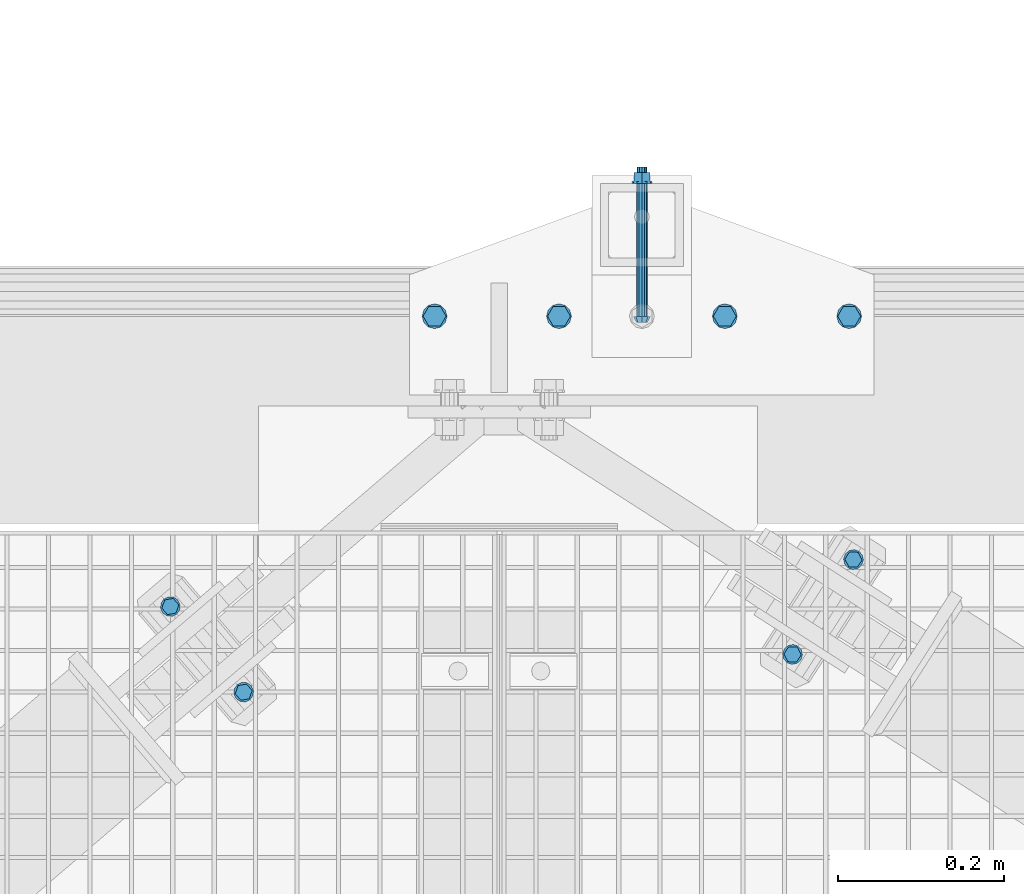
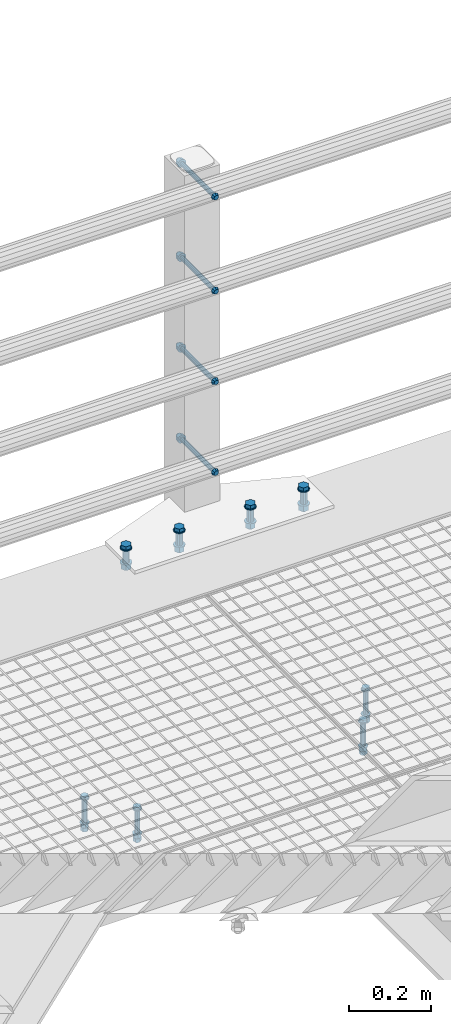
# One storey, part 42 of 1530: 7 mechanical fasteners.
"""IFC2X3 building model written with IfcOpenShell, lengths in millimetres."""

from ifc_helpers import new_model, si_unit, frame, origin_with_axes, place, context, subcontext, project, spatial, faceted_brep, source, transform, mapped, material, type_object, element, save


model = new_model("IFC2X3")

# Units and contexts
model_context = context("Model", 3, precision=1e-05, world=origin_with_axes())
body_context = subcontext(model_context, "Body", "Model", "MODEL_VIEW")
ifc_project = project(units=[si_unit("LENGTHUNIT", "METRE", prefix="MILLI"), si_unit("AREAUNIT", "SQUARE_METRE"), si_unit("VOLUMEUNIT", "CUBIC_METRE"), si_unit("MASSUNIT", "GRAM", prefix="KILO"), si_unit("TIMEUNIT", "SECOND"), si_unit("PLANEANGLEUNIT", "RADIAN"), si_unit("SOLIDANGLEUNIT", "STERADIAN"), si_unit("THERMODYNAMICTEMPERATUREUNIT", "DEGREE_CELSIUS"), si_unit("LUMINOUSINTENSITYUNIT", "LUMEN")], contexts=[model_context])

# Site, building, storey
site_placement = place(None, origin_with_axes())
site = spatial("IfcSite", under=ifc_project, at=site_placement, Name="Brattvåg", CompositionType="ELEMENT")
building_placement = place(site_placement, origin_with_axes())
building = spatial("IfcBuilding", under=site, at=building_placement, Name="Undefined", CompositionType="ELEMENT")
storey_placement = place(building_placement, origin_with_axes())
storey = spatial("IfcBuildingStorey", under=building, at=storey_placement, Name="Undefined", CompositionType="ELEMENT", Elevation=0.0)

# Mechanical fasteners
ifc_material = material(Name="8")
mechanical_fastener_type = type_object("IfcMechanicalFastenerType", Name="Bolt assembly")
shared_shape_1 = source(origin_with_axes(), body_context, "Body", "Brep", [
    faceted_brep([(10.3923048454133, -9.99999999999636, 0.0), (5.19615242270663, -9.99999999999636, 9.0), (-5.19615242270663, -9.99999999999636, 9.0), (-10.3923048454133, -9.99999999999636, 1.27269028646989e-15), (-5.19615242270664, -9.99999999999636, -9.0), (5.19615242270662, -9.99999999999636, -9.0), (5.19615242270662, -2.49999999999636, -9.0), (-5.19615242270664, -2.49999999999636, -9.0), (-10.3923048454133, -2.49999999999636, 1.27269028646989e-15), (-5.19615242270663, -2.49999999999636, 9.0), (5.19615242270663, -2.49999999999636, 9.0), (10.3923048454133, -2.49999999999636, 0.0), (6.0, -2.49999999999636, 0.0), (5.19615242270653, -2.49999999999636, 3.00000000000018), (2.99999999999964, -2.49999999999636, 5.19615242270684), (-6.21801588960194e-13, -2.49999999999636, 6.0), (-3.00000000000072, -2.49999999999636, 5.19615242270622), (-5.19615242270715, -2.49999999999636, 2.9999999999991), (-6.0, -2.49999999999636, -1.24360317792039e-12), (-5.19615242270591, -2.49999999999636, -3.00000000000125), (-2.99999999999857, -2.49999999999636, -5.19615242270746), (1.85874342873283e-12, -2.49999999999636, -6.0), (3.00000000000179, -2.49999999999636, -5.1961524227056), (5.19615242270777, -2.49999999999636, -2.99999999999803), (5.19615242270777, 97.4999999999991, -2.99999999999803), (3.00000000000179, 97.4999999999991, -5.1961524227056), (1.85874342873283e-12, 97.4999999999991, -6.0), (-2.99999999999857, 97.4999999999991, -5.19615242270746), (-5.19615242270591, 97.4999999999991, -3.00000000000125), (-6.0, 97.4999999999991, -1.24360317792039e-12), (-5.19615242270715, 97.4999999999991, 2.9999999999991), (-3.00000000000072, 97.4999999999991, 5.19615242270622), (-6.21801588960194e-13, 97.4999999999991, 6.0), (2.99999999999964, 97.4999999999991, 5.19615242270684), (5.19615242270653, 97.4999999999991, 3.00000000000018), (6.0, 97.4999999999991, 0.0), (12.0, -2.49999999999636, 0.0), (10.3923048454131, -2.49999999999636, 6.00000000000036), (5.99999999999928, -2.49999999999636, 10.3923048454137), (-1.24360317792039e-12, -2.49999999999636, 12.0), (-6.00000000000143, -2.49999999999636, 10.3923048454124), (-10.3923048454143, -2.49999999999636, 5.99999999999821), (-12.0, -2.49999999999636, -2.48720635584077e-12), (-10.3923048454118, -2.49999999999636, -6.00000000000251), (-5.99999999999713, -2.49999999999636, -10.3923048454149), (3.71748685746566e-12, -2.49999999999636, -12.0), (6.00000000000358, -2.49999999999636, -10.3923048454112), (10.3923048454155, -2.49999999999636, -5.99999999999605), (10.3923048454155, 3.63797880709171e-12, -5.99999999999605), (6.00000000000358, 3.63797880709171e-12, -10.3923048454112), (3.71748685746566e-12, 3.63797880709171e-12, -12.0), (-5.99999999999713, 3.63797880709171e-12, -10.3923048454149), (-10.3923048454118, 3.63797880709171e-12, -6.00000000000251), (-12.0, 3.63797880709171e-12, -2.48720635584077e-12), (-10.3923048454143, 3.63797880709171e-12, 5.99999999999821), (-6.00000000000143, 3.63797880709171e-12, 10.3923048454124), (-1.24360317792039e-12, 3.63797880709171e-12, 12.0), (5.99999999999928, 3.63797880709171e-12, 10.3923048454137), (10.3923048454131, 3.63797880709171e-12, 6.00000000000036), (12.0, 3.63797880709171e-12, 0.0), (12.0, 69.9999999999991, 0.0), (10.3923048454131, 69.9999999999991, 6.00000000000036), (5.99999999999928, 69.9999999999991, 10.3923048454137), (-1.24360317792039e-12, 69.9999999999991, 12.0), (-6.00000000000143, 69.9999999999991, 10.3923048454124), (-10.3923048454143, 69.9999999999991, 5.99999999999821), (-12.0, 69.9999999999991, -2.48720635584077e-12), (-10.3923048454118, 69.9999999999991, -6.00000000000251), (-5.99999999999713, 69.9999999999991, -10.3923048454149), (3.71748685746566e-12, 69.9999999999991, -12.0), (6.00000000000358, 69.9999999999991, -10.3923048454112), (10.3923048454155, 69.9999999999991, -5.99999999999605), (10.3923048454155, 72.4999999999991, -5.99999999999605), (6.00000000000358, 72.4999999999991, -10.3923048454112), (3.71748685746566e-12, 72.4999999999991, -12.0), (-5.99999999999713, 72.4999999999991, -10.3923048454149), (-10.3923048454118, 72.4999999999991, -6.00000000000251), (-12.0, 72.4999999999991, -2.48720635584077e-12), (-10.3923048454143, 72.4999999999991, 5.99999999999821), (-6.00000000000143, 72.4999999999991, 10.3923048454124), (-1.24360317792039e-12, 72.4999999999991, 12.0), (5.99999999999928, 72.4999999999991, 10.3923048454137), (10.3923048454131, 72.4999999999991, 6.00000000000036), (12.0, 72.4999999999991, 0.0), (10.3923048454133, 72.4999999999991, 0.0), (5.19615242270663, 72.4999999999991, 9.0), (-5.19615242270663, 72.4999999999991, 9.0), (-10.3923048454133, 72.4999999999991, 1.27269028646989e-15), (-5.19615242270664, 72.4999999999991, -9.0), (5.19615242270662, 72.4999999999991, -9.0), (5.19615242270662, 83.300000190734, -9.0), (-5.19615242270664, 83.300000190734, -9.0), (-10.3923048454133, 83.300000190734, 1.27269028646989e-15), (-5.19615242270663, 83.300000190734, 9.0), (5.19615242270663, 83.300000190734, 9.0), (10.3923048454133, 83.300000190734, 0.0), (9.0, 83.300000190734, 5.19615242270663), (6.36345143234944e-16, 83.300000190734, 10.3923048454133), (-9.0, 83.300000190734, 5.19615242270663), (-9.0, 83.300000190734, -5.19615242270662), (-1.11392563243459e-14, 83.300000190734, -10.3923048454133), (8.99999999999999, 83.300000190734, -5.19615242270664), (8.99999999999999, 94.1000003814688, -5.19615242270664), (-1.11392563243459e-14, 94.1000003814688, -10.3923048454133), (-9.0, 94.1000003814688, -5.19615242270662), (-9.0, 94.1000003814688, 5.19615242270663), (6.36345143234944e-16, 94.1000003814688, 10.3923048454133), (9.0, 94.1000003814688, 5.19615242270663)], [[[0, 1, 2, 3, 4, 5]], [[6, 7, 8, 9, 10, 11]], [[0, 11, 10, 1]], [[1, 10, 9, 2]], [[2, 9, 8, 3]], [[3, 8, 7, 4]], [[4, 7, 6, 5]], [[5, 6, 11, 0]], [[12, 13, 14, 15, 16, 17, 18, 19, 20, 21, 22, 23]], [[24, 25, 26, 27, 28, 29, 30, 31, 32, 33, 34, 35]], [[12, 35, 34, 13]], [[13, 34, 33, 14]], [[14, 33, 32, 15]], [[15, 32, 31, 16]], [[16, 31, 30, 17]], [[17, 30, 29, 18]], [[18, 29, 28, 19]], [[19, 28, 27, 20]], [[20, 27, 26, 21]], [[21, 26, 25, 22]], [[22, 25, 24, 23]], [[23, 24, 35, 12]], [[36, 37, 38, 39, 40, 41, 42, 43, 44, 45, 46, 47]], [[48, 49, 50, 51, 52, 53, 54, 55, 56, 57, 58, 59]], [[36, 59, 58, 37]], [[37, 58, 57, 38]], [[38, 57, 56, 39]], [[39, 56, 55, 40]], [[40, 55, 54, 41]], [[41, 54, 53, 42]], [[42, 53, 52, 43]], [[43, 52, 51, 44]], [[44, 51, 50, 45]], [[45, 50, 49, 46]], [[46, 49, 48, 47]], [[47, 48, 59, 36]], [[60, 61, 62, 63, 64, 65, 66, 67, 68, 69, 70, 71]], [[72, 73, 74, 75, 76, 77, 78, 79, 80, 81, 82, 83]], [[60, 83, 82, 61]], [[61, 82, 81, 62]], [[62, 81, 80, 63]], [[63, 80, 79, 64]], [[64, 79, 78, 65]], [[65, 78, 77, 66]], [[66, 77, 76, 67]], [[67, 76, 75, 68]], [[68, 75, 74, 69]], [[69, 74, 73, 70]], [[70, 73, 72, 71]], [[71, 72, 83, 60]], [[84, 85, 86, 87, 88, 89]], [[90, 91, 92, 93, 94, 95]], [[84, 95, 94, 85]], [[85, 94, 93, 86]], [[86, 93, 92, 87]], [[87, 92, 91, 88]], [[88, 91, 90, 89]], [[89, 90, 95, 84]], [[96, 97, 98, 99, 100, 101]], [[102, 103, 104, 105, 106, 107]], [[96, 107, 106, 97]], [[97, 106, 105, 98]], [[98, 105, 104, 99]], [[99, 104, 103, 100]], [[100, 103, 102, 101]], [[101, 102, 107, 96]]]),
    faceted_brep([(7.0, -9.09494701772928e-13, 0.0), (6.06217782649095, -9.09494701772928e-13, 3.50000000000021), (3.49999999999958, -9.09494701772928e-13, 6.06217782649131), (-7.25435187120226e-13, -9.09494701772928e-13, 7.0), (-3.50000000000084, -9.09494701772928e-13, 6.06217782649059), (-6.06217782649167, -9.09494701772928e-13, 3.49999999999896), (-7.0, -9.09494701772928e-13, -1.45087037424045e-12), (-6.06217782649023, -9.09494701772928e-13, -3.50000000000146), (-3.49999999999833, -9.09494701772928e-13, -6.06217782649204), (2.1685340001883e-12, -9.09494701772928e-13, -7.0), (3.50000000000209, -9.09494701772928e-13, -6.06217782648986), (6.0621778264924, -9.09494701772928e-13, -3.4999999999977), (6.0621778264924, 70.0999999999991, -3.4999999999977), (3.50000000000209, 70.0999999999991, -6.06217782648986), (2.1685340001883e-12, 70.0999999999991, -7.0), (-3.49999999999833, 70.0999999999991, -6.06217782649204), (-6.06217782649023, 70.0999999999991, -3.50000000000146), (-7.0, 70.0999999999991, -1.45087037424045e-12), (-6.06217782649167, 70.0999999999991, 3.49999999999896), (-3.50000000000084, 70.0999999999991, 6.06217782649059), (-7.25435187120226e-13, 70.0999999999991, 7.0), (3.49999999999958, 70.0999999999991, 6.06217782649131), (6.06217782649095, 70.0999999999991, 3.50000000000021), (7.0, 70.0999999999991, 0.0)], [[[0, 1, 2, 3, 4, 5, 6, 7, 8, 9, 10, 11]], [[12, 13, 14, 15, 16, 17, 18, 19, 20, 21, 22, 23]], [[0, 23, 22, 1]], [[1, 22, 21, 2]], [[2, 21, 20, 3]], [[3, 20, 19, 4]], [[4, 19, 18, 5]], [[5, 18, 17, 6]], [[6, 17, 16, 7]], [[7, 16, 15, 8]], [[8, 15, 14, 9]], [[9, 14, 13, 10]], [[10, 13, 12, 11]], [[11, 12, 23, 0]]]),
])
for number, where, z_axis, x_axis, name in (
    (1, (7931.70717107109, 8692.07446577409, -410.000000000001), (-0.84145930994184, 0.540320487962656, 0.0), (0.540320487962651, 0.841459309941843, 0.0), "Bolt assembly"),
    (2, (7181.30631233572, 8749.87960867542, -410.000000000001), (0.759623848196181, 0.65036267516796, 0.0), (0.65036267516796, -0.759623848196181, 0.0), "Bolt assembly"),
):
    element("IfcMechanicalFastener", number, at=place(storey_placement, frame(where, z_axis=z_axis, x_axis=x_axis)), inside=storey, type_object=mechanical_fastener_type, material=ifc_material, Name=name, NominalDiameter=12.0, NominalLength=100.0, context=body_context, shape_type="MappedRepresentation", body=[
        mapped(shared_shape_1, transform((0.0, 0.0, 0.0))),
        mapped(shared_shape_1, transform((136.0, 0.0, 0.0))),
    ])
shared_shape_2 = source(origin_with_axes(), body_context, "Body", "Brep", [
    faceted_brep([(6.49435320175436, -7.49984019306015, 0.0), (4.59220118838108, -7.49984019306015, 4.59220118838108), (3.97664443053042e-16, -7.49984019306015, 6.49435320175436), (-4.59220118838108, -7.49984019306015, 4.59220118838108), (-6.49435320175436, -7.49984019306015, 7.95328886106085e-16), (-4.59220118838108, -7.49984019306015, -4.59220118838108), (-1.19299332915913e-15, -7.49984019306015, -6.49435320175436), (4.59220118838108, -7.49984019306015, -4.59220118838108), (7.34846922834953, 0.000159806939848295, -7.34846922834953), (-1.90903542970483e-15, 0.000159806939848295, -10.3923048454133), (-7.34846922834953, 0.000159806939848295, -7.34846922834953), (-10.3923048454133, 0.000159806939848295, 1.27269028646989e-15), (-7.34846922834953, 0.000159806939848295, 7.34846922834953), (6.36345143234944e-16, 0.000159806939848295, 10.3923048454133), (7.34846922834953, 0.000159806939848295, 7.34846922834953), (10.3923048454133, 0.000159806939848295, 0.0), (6.0, 0.000159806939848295, 0.0), (5.19615242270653, 0.000159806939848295, 3.00000000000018), (2.99999999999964, 0.000159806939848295, 5.19615242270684), (-6.21801588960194e-13, 0.000159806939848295, 6.0), (-3.00000000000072, 0.000159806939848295, 5.19615242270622), (-5.19615242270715, 0.000159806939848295, 2.9999999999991), (-6.0, 0.000159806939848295, -1.24360317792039e-12), (-5.19615242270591, 0.000159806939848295, -3.00000000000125), (-2.99999999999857, 0.000159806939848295, -5.19615242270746), (1.85874342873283e-12, 0.000159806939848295, -6.0), (3.00000000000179, 0.000159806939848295, -5.1961524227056), (5.19615242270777, 0.000159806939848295, -2.99999999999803), (5.19615242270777, 180.00015980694, -2.99999999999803), (3.00000000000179, 180.00015980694, -5.1961524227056), (1.85874342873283e-12, 180.00015980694, -6.0), (-2.99999999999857, 180.00015980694, -5.19615242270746), (-5.19615242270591, 180.00015980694, -3.00000000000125), (-6.0, 180.00015980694, -1.24360317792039e-12), (-5.19615242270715, 180.00015980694, 2.9999999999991), (-3.00000000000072, 180.00015980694, 5.19615242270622), (-6.21801588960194e-13, 180.00015980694, 6.0), (2.99999999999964, 180.00015980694, 5.19615242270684), (5.19615242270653, 180.00015980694, 3.00000000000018), (6.0, 180.00015980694, 0.0), (12.0, 160.299998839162, 0.0), (10.3923048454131, 160.299998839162, 6.00000000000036), (5.99999999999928, 160.299998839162, 10.3923048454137), (-1.24360317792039e-12, 160.299998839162, 12.0), (-6.00000000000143, 160.299998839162, 10.3923048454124), (-10.3923048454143, 160.299998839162, 5.99999999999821), (-12.0, 160.299998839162, -2.48720635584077e-12), (-10.3923048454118, 160.299998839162, -6.00000000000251), (-5.99999999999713, 160.299998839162, -10.3923048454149), (3.71748685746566e-12, 160.299998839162, -12.0), (6.00000000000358, 160.299998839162, -10.3923048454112), (10.3923048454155, 160.299998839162, -5.99999999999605), (10.3923048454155, 162.799998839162, -5.99999999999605), (6.00000000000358, 162.799998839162, -10.3923048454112), (3.71748685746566e-12, 162.799998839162, -12.0), (-5.99999999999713, 162.799998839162, -10.3923048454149), (-10.3923048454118, 162.799998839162, -6.00000000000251), (-12.0, 162.799998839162, -2.48720635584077e-12), (-10.3923048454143, 162.799998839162, 5.99999999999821), (-6.00000000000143, 162.799998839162, 10.3923048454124), (-1.24360317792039e-12, 162.799998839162, 12.0), (5.99999999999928, 162.799998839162, 10.3923048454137), (10.3923048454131, 162.799998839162, 6.00000000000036), (12.0, 162.799998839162, 0.0), (10.9696551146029, 162.799998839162, 0.0), (5.48482755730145, 162.799998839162, 9.5), (-5.48482755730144, 162.799998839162, 9.5), (-10.9696551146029, 162.799998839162, 1.34339530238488e-15), (-5.48482755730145, 162.799998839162, -9.5), (5.48482755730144, 162.799998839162, -9.5), (5.48482755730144, 173.599999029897, -9.5), (-5.48482755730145, 173.599999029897, -9.5), (-10.9696551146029, 173.599999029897, 1.34339530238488e-15), (-5.48482755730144, 173.599999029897, 9.5), (5.48482755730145, 173.599999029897, 9.5), (10.9696551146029, 173.599999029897, 0.0)], [[[0, 1, 2, 3, 4, 5, 6, 7]], [[8, 9, 10, 11, 12, 13, 14, 15]], [[0, 15, 14, 1]], [[1, 14, 13, 2]], [[2, 13, 12, 3]], [[3, 12, 11, 4]], [[4, 11, 10, 5]], [[5, 10, 9, 6]], [[6, 9, 8, 7]], [[7, 8, 15, 0]], [[16, 17, 18, 19, 20, 21, 22, 23, 24, 25, 26, 27]], [[28, 29, 30, 31, 32, 33, 34, 35, 36, 37, 38, 39]], [[16, 39, 38, 17]], [[17, 38, 37, 18]], [[18, 37, 36, 19]], [[19, 36, 35, 20]], [[20, 35, 34, 21]], [[21, 34, 33, 22]], [[22, 33, 32, 23]], [[23, 32, 31, 24]], [[24, 31, 30, 25]], [[25, 30, 29, 26]], [[26, 29, 28, 27]], [[27, 28, 39, 16]], [[40, 41, 42, 43, 44, 45, 46, 47, 48, 49, 50, 51]], [[52, 53, 54, 55, 56, 57, 58, 59, 60, 61, 62, 63]], [[40, 63, 62, 41]], [[41, 62, 61, 42]], [[42, 61, 60, 43]], [[43, 60, 59, 44]], [[44, 59, 58, 45]], [[45, 58, 57, 46]], [[46, 57, 56, 47]], [[47, 56, 55, 48]], [[48, 55, 54, 49]], [[49, 54, 53, 50]], [[50, 53, 52, 51]], [[51, 52, 63, 40]], [[64, 65, 66, 67, 68, 69]], [[70, 71, 72, 73, 74, 75]], [[64, 75, 74, 65]], [[65, 74, 73, 66]], [[66, 73, 72, 67]], [[67, 72, 71, 68]], [[68, 71, 70, 69]], [[69, 70, 75, 64]]]),
    faceted_brep([(6.5, 0.100159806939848, 0.0), (5.62916512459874, 0.100159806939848, 3.25000000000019), (3.24999999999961, 0.100159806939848, 5.62916512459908), (-6.7361838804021e-13, 0.100159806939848, 6.5), (-3.25000000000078, 0.100159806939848, 5.6291651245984), (-5.62916512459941, 0.100159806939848, 3.24999999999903), (-6.5, 0.100159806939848, -1.34723677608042e-12), (-5.62916512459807, 0.100159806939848, -3.25000000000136), (-3.24999999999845, 0.100159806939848, -5.62916512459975), (2.01363871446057e-12, 0.100159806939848, -6.5), (3.25000000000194, 0.100159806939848, -5.62916512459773), (5.62916512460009, 0.100159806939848, -3.24999999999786), (5.62916512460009, 60.4001552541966, -3.24999999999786), (3.25000000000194, 60.4001552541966, -5.62916512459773), (2.01363871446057e-12, 60.4001552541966, -6.5), (-3.24999999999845, 60.4001552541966, -5.62916512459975), (-5.62916512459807, 60.4001552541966, -3.25000000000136), (-6.5, 60.4001552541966, -1.34723677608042e-12), (-5.62916512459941, 60.4001552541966, 3.24999999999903), (-3.25000000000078, 60.4001552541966, 5.6291651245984), (-6.7361838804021e-13, 60.4001552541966, 6.5), (3.24999999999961, 60.4001552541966, 5.62916512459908), (5.62916512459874, 60.4001552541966, 3.25000000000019), (6.5, 60.4001552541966, 0.0), (6.5, 60.1999988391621, 0.0), (5.62916512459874, 60.1999988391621, 3.25000000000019), (3.24999999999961, 60.1999988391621, 5.62916512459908), (-6.7361838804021e-13, 60.1999988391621, 6.5), (-3.25000000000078, 60.1999988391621, 5.6291651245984), (-5.62916512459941, 60.1999988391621, 3.24999999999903), (-6.5, 60.1999988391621, -1.34723677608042e-12), (-5.62916512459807, 60.1999988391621, -3.25000000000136), (-3.24999999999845, 60.1999988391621, -5.62916512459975), (2.01363871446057e-12, 60.1999988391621, -6.5), (3.25000000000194, 60.1999988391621, -5.62916512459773), (5.62916512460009, 60.1999988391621, -3.24999999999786), (5.62916512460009, 160.299998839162, -3.24999999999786), (3.25000000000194, 160.299998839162, -5.62916512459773), (2.01363871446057e-12, 160.299998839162, -6.5), (-3.24999999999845, 160.299998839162, -5.62916512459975), (-5.62916512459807, 160.299998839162, -3.25000000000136), (-6.5, 160.299998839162, -1.34723677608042e-12), (-5.62916512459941, 160.299998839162, 3.24999999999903), (-3.25000000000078, 160.299998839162, 5.6291651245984), (-6.7361838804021e-13, 160.299998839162, 6.5), (3.24999999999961, 160.299998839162, 5.62916512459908), (5.62916512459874, 160.299998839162, 3.25000000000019), (6.5, 160.299998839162, 0.0)], [[[0, 1, 2, 3, 4, 5, 6, 7, 8, 9, 10, 11]], [[12, 13, 14, 15, 16, 17, 18, 19, 20, 21, 22, 23]], [[0, 23, 22, 1]], [[1, 22, 21, 2]], [[2, 21, 20, 3]], [[3, 20, 19, 4]], [[4, 19, 18, 5]], [[5, 18, 17, 6]], [[6, 17, 16, 7]], [[7, 16, 15, 8]], [[8, 15, 14, 9]], [[9, 14, 13, 10]], [[10, 13, 12, 11]], [[11, 12, 23, 0]], [[24, 25, 26, 27, 28, 29, 30, 31, 32, 33, 34, 35]], [[36, 37, 38, 39, 40, 41, 42, 43, 44, 45, 46, 47]], [[24, 47, 46, 25]], [[25, 46, 45, 26]], [[26, 45, 44, 27]], [[27, 44, 43, 28]], [[28, 43, 42, 29]], [[29, 42, 41, 30]], [[30, 41, 40, 31]], [[31, 40, 39, 32]], [[32, 39, 38, 33]], [[33, 38, 37, 34]], [[34, 37, 36, 35]], [[35, 36, 47, 24]]]),
])
for number, where, z_axis, x_axis, name in (
    (3, (7749.9999999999, 9099.69972268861, 149.550000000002), (1.0, 0.0, 0.0), (0.0, 0.0, -1.0), "Bolt assembly"),
    (4, (7749.9999999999, 9099.69972268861, 419.550000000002), (1.0, 0.0, 0.0), (0.0, 0.0, -1.0), "Bolt assembly"),
    (5, (7749.9999999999, 9099.69972268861, 689.550000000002), (1.0, 0.0, 0.0), (0.0, 0.0, -1.0), "Bolt assembly"),
    (6, (7749.9999999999, 9099.69972268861, 969.550000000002), (1.0, 0.0, 0.0), (0.0, 0.0, -1.0), "Bolt assembly"),
):
    element("IfcMechanicalFastener", number, at=place(storey_placement, frame(where, z_axis=z_axis, x_axis=x_axis)), inside=storey, type_object=mechanical_fastener_type, material=ifc_material, Name=name, NominalDiameter=12.0, NominalLength=180.0, context=body_context, shape_type="MappedRepresentation", body=[
        mapped(shared_shape_2, transform((0.0, 0.0, 0.0))),
    ])
shared_shape_3 = source(origin_with_axes(), body_context, "Body", "Brep", [
    faceted_brep([(13.856406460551, -13.0, 0.0), (6.92820323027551, -13.0, 12.0), (-6.92820323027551, -13.0, 12.0), (-13.856406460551, -13.0, 1.69692038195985e-15), (-6.92820323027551, -13.0, -12.0), (6.9282032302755, -13.0, -12.0), (6.9282032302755, -3.0, -12.0), (-6.92820323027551, -3.0, -12.0), (-13.856406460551, -3.0, 1.69692038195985e-15), (-6.92820323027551, -3.0, 12.0), (6.92820323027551, -3.0, 12.0), (13.856406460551, -3.0, 0.0), (8.0, -3.0, 0.0), (6.92820323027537, -3.0, 4.00000000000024), (3.99999999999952, -3.0, 6.92820323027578), (-8.29068785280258e-13, -3.0, 8.0), (-4.00000000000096, -3.0, 6.92820323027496), (-6.9282032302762, -3.0, 3.99999999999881), (-8.0, -3.0, -1.65813757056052e-12), (-6.92820323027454, -3.0, -4.00000000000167), (-3.99999999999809, -3.0, -6.92820323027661), (2.47832457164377e-12, -3.0, -8.0), (4.00000000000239, -3.0, -6.92820323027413), (6.92820323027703, -3.0, -3.99999999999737), (6.92820323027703, 62.0000000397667, -3.99999999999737), (4.00000000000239, 62.0000000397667, -6.92820323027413), (2.47832457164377e-12, 62.0000000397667, -8.0), (-3.99999999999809, 62.0000000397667, -6.92820323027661), (-6.92820323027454, 62.0000000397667, -4.00000000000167), (-8.0, 62.0000000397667, -1.65813757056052e-12), (-6.9282032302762, 62.0000000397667, 3.99999999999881), (-4.00000000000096, 62.0000000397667, 6.92820323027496), (-8.29068785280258e-13, 62.0000000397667, 8.0), (3.99999999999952, 62.0000000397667, 6.92820323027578), (6.92820323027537, 62.0000000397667, 4.00000000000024), (8.0, 62.0000000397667, 0.0), (15.0, -3.0, 0.0), (12.9903810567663, -3.0, 7.50000000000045), (7.4999999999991, -3.0, 12.9903810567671), (-1.55450397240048e-12, -3.0, 15.0), (-7.50000000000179, -3.0, 12.9903810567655), (-12.9903810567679, -3.0, 7.49999999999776), (-15.0, -3.0, -3.10900794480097e-12), (-12.9903810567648, -3.0, -7.50000000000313), (-7.49999999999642, -3.0, -12.9903810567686), (4.64685857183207e-12, -3.0, -15.0), (7.50000000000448, -3.0, -12.990381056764), (12.9903810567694, -3.0, -7.49999999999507), (12.9903810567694, 0.0, -7.49999999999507), (7.50000000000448, 0.0, -12.990381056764), (0.0, 0.0, -15.0), (-7.49999999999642, 0.0, -12.9903810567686), (-12.9903810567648, 0.0, -7.50000000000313), (-15.0, 0.0, -3.10900794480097e-12), (-12.9903810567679, 0.0, 7.49999999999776), (-7.50000000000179, 0.0, 12.9903810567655), (0.0, 0.0, 15.0), (7.4999999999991, 0.0, 12.9903810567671), (12.9903810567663, 0.0, 7.50000000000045), (15.0, 0.0, 0.0), (15.0, 39.9997390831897, 0.0), (12.9903810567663, 39.9997390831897, 7.50000000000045), (7.4999999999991, 39.9997390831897, 12.9903810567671), (-1.55450397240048e-12, 39.9997390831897, 15.0), (-7.50000000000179, 39.9997390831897, 12.9903810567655), (-12.9903810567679, 39.9997390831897, 7.49999999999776), (-15.0, 39.9997390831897, -3.10900794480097e-12), (-12.9903810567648, 39.9997390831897, -7.50000000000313), (-7.49999999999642, 39.9997390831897, -12.9903810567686), (4.64685857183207e-12, 39.9997390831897, -15.0), (7.50000000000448, 39.9997390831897, -12.990381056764), (12.9903810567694, 39.9997390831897, -7.49999999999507), (12.9903810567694, 42.9997390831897, -7.49999999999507), (7.50000000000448, 42.9997390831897, -12.990381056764), (4.64685857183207e-12, 42.9997390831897, -15.0), (-7.49999999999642, 42.9997390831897, -12.9903810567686), (-12.9903810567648, 42.9997390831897, -7.50000000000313), (-15.0, 42.9997390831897, -3.10900794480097e-12), (-12.9903810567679, 42.9997390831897, 7.49999999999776), (-7.50000000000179, 42.9997390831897, 12.9903810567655), (-1.55450397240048e-12, 42.9997390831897, 15.0), (7.4999999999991, 42.9997390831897, 12.9903810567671), (12.9903810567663, 42.9997390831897, 7.50000000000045), (15.0, 42.9997390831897, 0.0), (13.856406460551, 42.9997390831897, 0.0), (6.92820323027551, 42.9997390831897, 12.0), (-6.92820323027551, 42.9997390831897, 12.0), (-13.856406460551, 42.9997390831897, 1.69692038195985e-15), (-6.92820323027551, 42.9997390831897, -12.0), (6.9282032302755, 42.9997390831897, -12.0), (6.9282032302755, 57.7997392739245, -12.0), (-6.92820323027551, 57.7997392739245, -12.0), (-13.856406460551, 57.7997392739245, 1.69692038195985e-15), (-6.92820323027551, 57.7997392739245, 12.0), (6.92820323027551, 57.7997392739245, 12.0), (13.856406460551, 57.7997392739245, 0.0)], [[[0, 1, 2, 3, 4, 5]], [[6, 7, 8, 9, 10, 11]], [[0, 11, 10, 1]], [[1, 10, 9, 2]], [[2, 9, 8, 3]], [[3, 8, 7, 4]], [[4, 7, 6, 5]], [[5, 6, 11, 0]], [[12, 13, 14, 15, 16, 17, 18, 19, 20, 21, 22, 23]], [[24, 25, 26, 27, 28, 29, 30, 31, 32, 33, 34, 35]], [[12, 35, 34, 13]], [[13, 34, 33, 14]], [[14, 33, 32, 15]], [[15, 32, 31, 16]], [[16, 31, 30, 17]], [[17, 30, 29, 18]], [[18, 29, 28, 19]], [[19, 28, 27, 20]], [[20, 27, 26, 21]], [[21, 26, 25, 22]], [[22, 25, 24, 23]], [[23, 24, 35, 12]], [[36, 37, 38, 39, 40, 41, 42, 43, 44, 45, 46, 47]], [[48, 49, 50, 51, 52, 53, 54, 55, 56, 57, 58, 59]], [[36, 59, 58, 37]], [[37, 58, 57, 38]], [[38, 57, 56, 39]], [[39, 56, 55, 40]], [[40, 55, 54, 41]], [[41, 54, 53, 42]], [[42, 53, 52, 43]], [[43, 52, 51, 44]], [[44, 51, 50, 45]], [[45, 50, 49, 46]], [[46, 49, 48, 47]], [[47, 48, 59, 36]], [[60, 61, 62, 63, 64, 65, 66, 67, 68, 69, 70, 71]], [[72, 73, 74, 75, 76, 77, 78, 79, 80, 81, 82, 83]], [[60, 83, 82, 61]], [[61, 82, 81, 62]], [[62, 81, 80, 63]], [[63, 80, 79, 64]], [[64, 79, 78, 65]], [[65, 78, 77, 66]], [[66, 77, 76, 67]], [[67, 76, 75, 68]], [[68, 75, 74, 69]], [[69, 74, 73, 70]], [[70, 73, 72, 71]], [[71, 72, 83, 60]], [[84, 85, 86, 87, 88, 89]], [[90, 91, 92, 93, 94, 95]], [[84, 95, 94, 85]], [[85, 94, 93, 86]], [[86, 93, 92, 87]], [[87, 92, 91, 88]], [[88, 91, 90, 89]], [[89, 90, 95, 84]]]),
    faceted_brep([(9.0, 0.1, 0.0), (7.79422863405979, 0.1, 4.50000000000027), (4.49999999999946, 0.1, 7.79422863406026), (-9.3270238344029e-13, 0.1, 9.0), (-4.50000000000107, 0.1, 7.79422863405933), (-7.79422863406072, 0.1, 4.49999999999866), (-9.0, 0.1, -1.86540476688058e-12), (-7.79422863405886, 0.1, -4.50000000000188), (-4.49999999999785, 0.1, -7.79422863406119), (2.78811514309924e-12, 0.1, -9.0), (4.50000000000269, 0.1, -7.7942286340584), (7.79422863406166, 0.1, -4.49999999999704), (7.79422863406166, 10.1, -4.49999999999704), (4.50000000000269, 10.1, -7.7942286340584), (2.78811514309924e-12, 10.1, -9.0), (-4.49999999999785, 10.1, -7.79422863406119), (-7.79422863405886, 10.1, -4.50000000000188), (-9.0, 10.1, -1.86540476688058e-12), (-7.79422863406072, 10.1, 4.49999999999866), (-4.50000000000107, 10.1, 7.79422863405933), (-9.3270238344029e-13, 10.1, 9.0), (4.49999999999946, 10.1, 7.79422863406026), (7.79422863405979, 10.1, 4.50000000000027), (9.0, 10.1, 0.0), (9.0, 9.8997390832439, 0.0), (7.79422863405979, 9.8997390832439, 4.50000000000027), (4.49999999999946, 9.8997390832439, 7.79422863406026), (-9.3270238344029e-13, 9.8997390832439, 9.0), (-4.50000000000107, 9.8997390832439, 7.79422863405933), (-7.79422863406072, 9.8997390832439, 4.49999999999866), (-9.0, 9.8997390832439, -1.86540476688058e-12), (-7.79422863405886, 9.8997390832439, -4.50000000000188), (-4.49999999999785, 9.8997390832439, -7.79422863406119), (2.78811514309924e-12, 9.8997390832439, -9.0), (4.50000000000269, 9.8997390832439, -7.7942286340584), (7.79422863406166, 9.8997390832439, -4.49999999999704), (7.79422863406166, 39.9997390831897, -4.49999999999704), (4.50000000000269, 39.9997390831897, -7.7942286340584), (2.78811514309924e-12, 39.9997390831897, -9.0), (-4.49999999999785, 39.9997390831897, -7.79422863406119), (-7.79422863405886, 39.9997390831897, -4.50000000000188), (-9.0, 39.9997390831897, -1.86540476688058e-12), (-7.79422863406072, 39.9997390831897, 4.49999999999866), (-4.50000000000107, 39.9997390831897, 7.79422863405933), (-9.3270238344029e-13, 39.9997390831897, 9.0), (4.49999999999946, 39.9997390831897, 7.79422863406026), (7.79422863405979, 39.9997390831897, 4.50000000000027), (9.0, 39.9997390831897, 0.0)], [[[0, 1, 2, 3, 4, 5, 6, 7, 8, 9, 10, 11]], [[12, 13, 14, 15, 16, 17, 18, 19, 20, 21, 22, 23]], [[0, 23, 22, 1]], [[1, 22, 21, 2]], [[2, 21, 20, 3]], [[3, 20, 19, 4]], [[4, 19, 18, 5]], [[5, 18, 17, 6]], [[6, 17, 16, 7]], [[7, 16, 15, 8]], [[8, 15, 14, 9]], [[9, 14, 13, 10]], [[10, 13, 12, 11]], [[11, 12, 23, 0]], [[24, 25, 26, 27, 28, 29, 30, 31, 32, 33, 34, 35]], [[36, 37, 38, 39, 40, 41, 42, 43, 44, 45, 46, 47]], [[24, 47, 46, 25]], [[25, 46, 45, 26]], [[26, 45, 44, 27]], [[27, 44, 43, 28]], [[28, 43, 42, 29]], [[29, 42, 41, 30]], [[30, 41, 40, 31]], [[31, 40, 39, 32]], [[32, 39, 38, 33]], [[33, 38, 37, 34]], [[34, 37, 36, 35]], [[35, 36, 47, 24]]]),
])
mechanical_fastener_placement = place(storey_placement, frame((7500.00080864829, 9099.99960715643, 9.99973907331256), z_axis=(0.0, 1.0, 0.0), x_axis=(1.0, 0.0, 0.0)))
element("IfcMechanicalFastener", 7, at=mechanical_fastener_placement, inside=storey, type_object=mechanical_fastener_type, material=ifc_material, Name="Bolt assembly", NominalDiameter=16.0, NominalLength=65.0, context=body_context, shape_type="MappedRepresentation", body=[
    mapped(shared_shape_3, transform((0.0, 0.0, 0.0))),
    mapped(shared_shape_3, transform((150.000000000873, 2.32514452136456e-10, 0.0))),
    mapped(shared_shape_3, transform((350.0, 1.49213974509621e-11, 0.0))),
    mapped(shared_shape_3, transform((500.0, 0.0, 0.0))),
])

save(model, "model.ifc")
